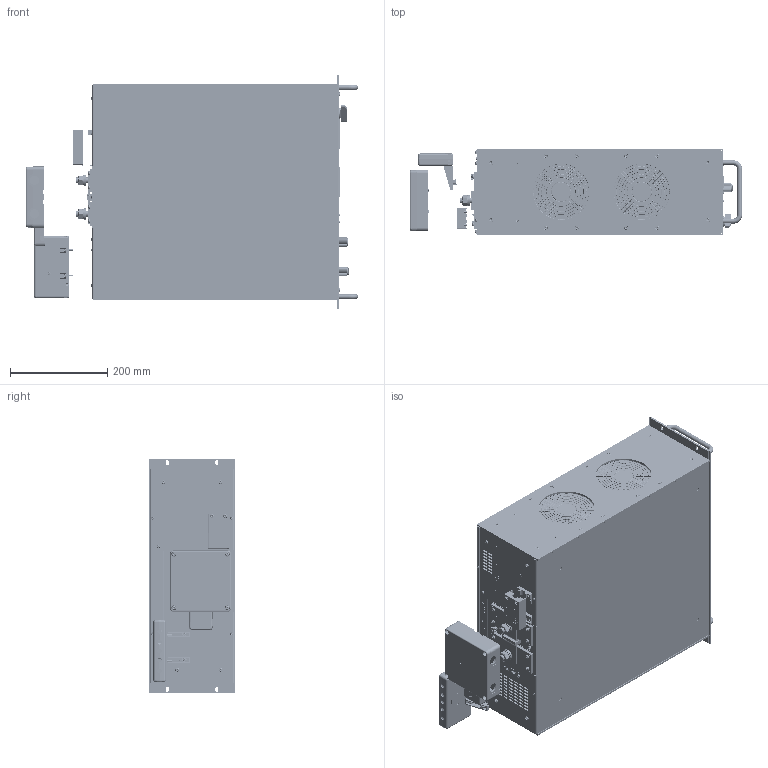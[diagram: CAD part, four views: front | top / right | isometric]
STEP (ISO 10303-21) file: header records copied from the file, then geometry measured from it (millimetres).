
FILE_DESCRIPTION(/* description */ (''),/* implementation_level */ '2;1');
FILE_NAME(/* name */ 'D:\SM6000\SM6000 presentation outside\Assembly SM6000_Shrinkwrap_3.stp',/* time_stamp */ '2013-10-29T11:20:32+01:00',/* author */ ('Simon'),/* organization */ (''),/* preprocessor_version */ 'ST-DEVELOPER v15.2',/* originating_system */ 'Autodesk Inventor 2014',/* authorisation */ '');
FILE_SCHEMA (('AUTOMOTIVE_DESIGN { 1 0 10303 214 3 1 1 }'));
Products named in the file (1): Assembly SM6000_Shrinkwrap_3
Bounding box: 682 x 177 x 482.5 mm (x, y, z)
Volume: 38427707.9 mm3; surface area: 1264717.7 mm2
Topology: 4 solids, 5 shells, 11972 faces, 31917 edges, 20864 vertices
Faces by surface type: plane 7407, bspline 2143, cylinder 1375, cone 825, torus 195, sphere 27
Full cylindrical faces by diameter (mm): 0.339 x5, 1 x4, 1.4 x32, 1.5 x1, 2.459 x2, 2.5 x6, 3 x6, 3.2 x46, 3.242 x10, 3.5 x17, 4 x50, 4.1 x23, 4.134 x2, 4.2 x11, 4.3 x1, 4.4 x1, 4.5 x27, 5 x2, 5.2 x2, 5.3 x6, 5.5 x1, 5.6 x4, 6 x9, 6.2 x2, 6.5 x2, 7.7 x4, 7.8 x44, 8.5 x2, 8.8 x5, 10 x6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
Entity records: 396817 total; most frequent: CARTESIAN_POINT 109933, ORIENTED_EDGE 61768, DIRECTION 47622, EDGE_CURVE 30881, VERTEX_POINT 20602, LINE 19670, VECTOR 19670, EDGE_LOOP 14088
